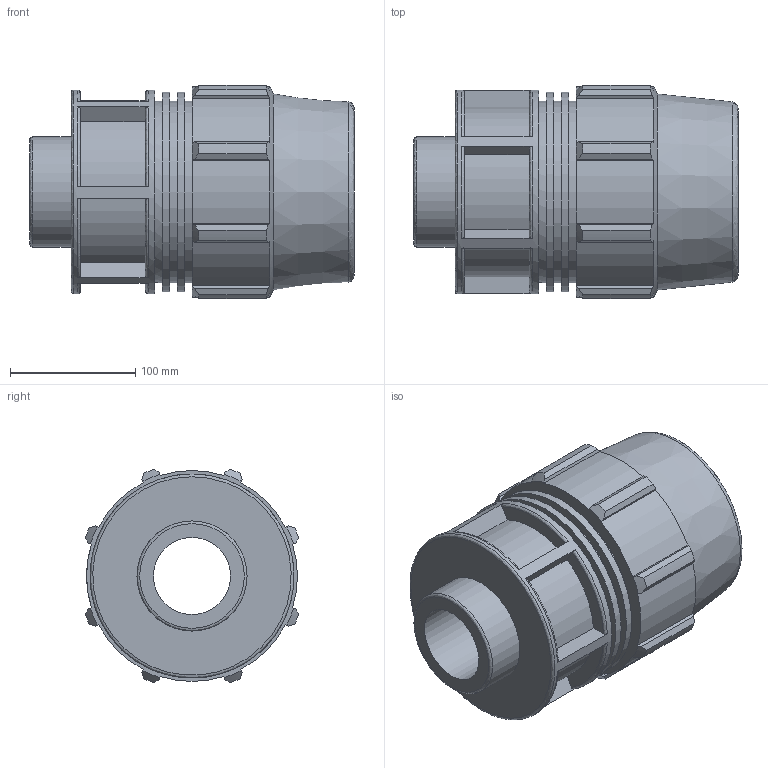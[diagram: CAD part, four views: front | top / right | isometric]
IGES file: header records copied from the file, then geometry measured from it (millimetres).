
Global section: file name: 870200110030_180200110030_840206110030.ipt; native system: Autodesk Inventor 2015; preprocessor: unknown; author: KIM; date: 20180325.201146; units: millimetre
Bounding box: 259 x 170.31 x 170.31 mm (x, y, z)
Volume: 2244288 mm3; surface area: 281620.7 mm2
Topology: 1 solids, 1 shells, 125 faces, 333 edges, 224 vertices
Faces by surface type: plane 67, cylinder 29, revolution 19, cone 10
Full cylindrical faces by diameter (mm): 87.884 x1, 144.8 x3, 159.642 x2, 162.9 x1
